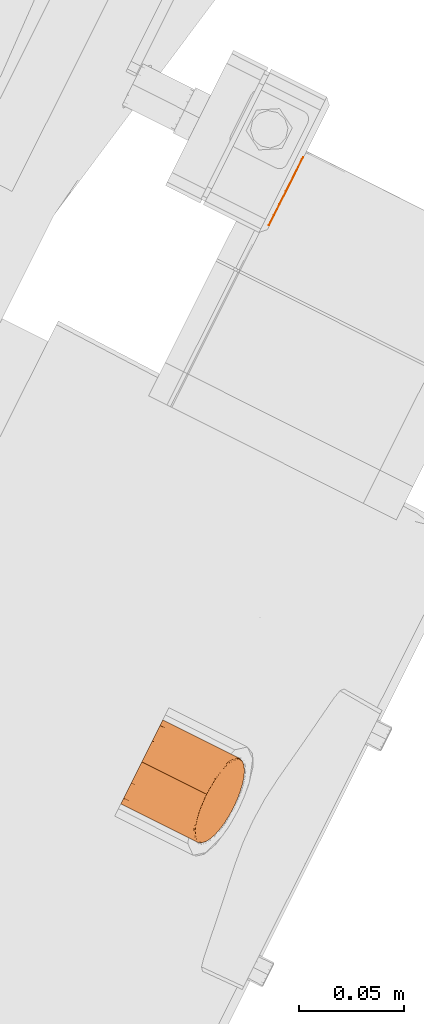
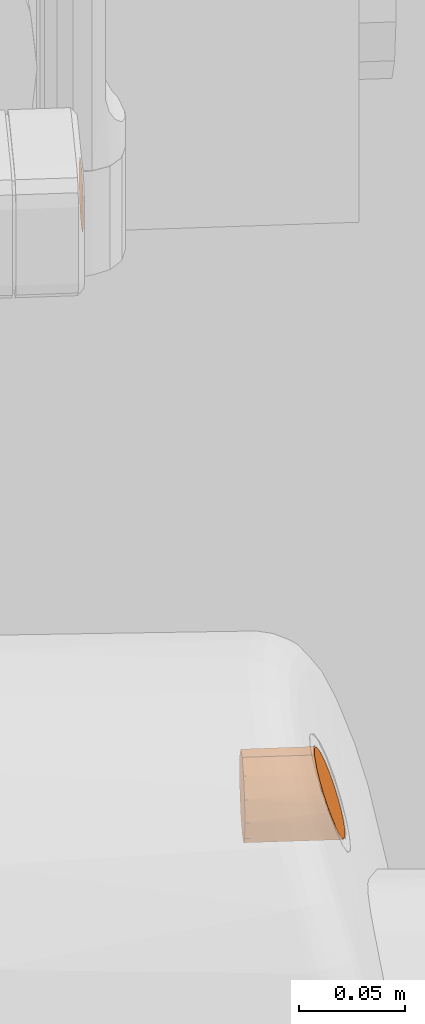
# One storey, part 199 of 206: 2 proxies.
"""IFC2X3 building model written with IfcOpenShell, lengths in metres."""

from ifc_helpers import new_model, si_unit, derived_unit, direction, frame, origin, place, context, subcontext, project, spatial, faceted_brep, source, transform, mapped, material, type_object, type_shapes, element, save


model = new_model("IFC2X3")

# Units and contexts
model_context = context("Model", 3, precision=5.2338327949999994e-05, world=origin(), true_north=direction((0.0, 1.0)))
body_context = subcontext(model_context, "Body", "Model", "MODEL_VIEW")
ifc_project = project(units=[si_unit("LENGTHUNIT", "METRE"), si_unit("AREAUNIT", "SQUARE_METRE"), si_unit("VOLUMEUNIT", "CUBIC_METRE"), si_unit("MASSUNIT", "GRAM", prefix="KILO"), si_unit("PLANEANGLEUNIT", "RADIAN"), derived_unit("THERMALTRANSMITTANCEUNIT", [(si_unit("MASSUNIT", "GRAM", prefix="KILO"), 1), (si_unit("THERMODYNAMICTEMPERATUREUNIT", "KELVIN"), -1), (si_unit("TIMEUNIT", "SECOND"), -3)])], contexts=[model_context])

# Site, building, storey
site_placement = place(None, frame((0.0, 0.0, 0.0), z_axis=(0.0, 0.0, 1.0), x_axis=(0.8939966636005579, -0.4480736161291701, 0.0)))
site = spatial("IfcSite", under=ifc_project, at=site_placement, Name="Default", CompositionType="ELEMENT")
building_placement = place(site_placement, origin())
building = spatial("IfcBuilding", under=site, at=building_placement, CompositionType="ELEMENT")
storey_placement = place(building_placement, origin())
storey = spatial("IfcBuildingStorey", under=building, at=storey_placement, Name="Erdgeschoss", CompositionType="ELEMENT", Elevation=0.0)

# Proxies
ifc_material_1 = material(Name="IfcSurfaceStyle #626231")
building_element_proxy_type_1 = type_object("IfcBuildingElementProxyType", Name="BuildingElementProxy 54:BuildingElementProxy 54", PredefinedType="NOTDEFINED", material=ifc_material_1)
shared_shape_1 = source(origin(), body_context, "Body", "Brep", [
    faceted_brep([(21.72325832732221, 4.1999830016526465, 0.7647842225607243), (21.72330908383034, 4.1999830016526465, 0.7644547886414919), (21.723122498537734, 4.2041402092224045, 0.7651936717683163), (21.723156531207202, 4.2042332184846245, 0.7647373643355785), (21.72274305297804, 4.208311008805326, 0.7659908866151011), (21.722678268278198, 4.208388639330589, 0.7657815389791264), (21.722007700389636, 4.212175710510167, 0.7678264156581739), (21.72189369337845, 4.212267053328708, 0.7676516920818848), (21.720997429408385, 4.215611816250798, 0.7704037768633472), (21.72084323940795, 4.215697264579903, 0.770267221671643), (21.71975469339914, 4.218449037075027, 0.7736345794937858), (21.719574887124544, 4.2185150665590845, 0.7735308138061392), (21.718336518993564, 4.220544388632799, 0.7773894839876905), (21.718144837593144, 4.220583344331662, 0.7773099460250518), (21.716810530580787, 4.221835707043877, 0.7814957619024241), (21.716619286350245, 4.221863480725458, 0.7814262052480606), (21.715240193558, 4.222292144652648, 0.785778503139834), (21.723297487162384, 4.1999830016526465, 0.7643168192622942), (21.723262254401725, 4.1999830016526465, 0.764166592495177), (21.723093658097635, 4.20427339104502, 0.7645145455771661), (21.723248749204, 4.1999830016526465, 0.7641269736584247), (21.72323414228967, 4.199983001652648, 0.7640892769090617), (21.723201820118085, 4.1999830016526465, 0.7640185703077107), (21.722980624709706, 4.204306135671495, 0.7643124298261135), (21.722564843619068, 4.208452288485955, 0.7655900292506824), (21.722406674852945, 4.208498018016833, 0.7654272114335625), (21.721737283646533, 4.212333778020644, 0.7675000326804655), (21.721547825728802, 4.212373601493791, 0.7673779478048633), (21.720658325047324, 4.215750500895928, 0.7701527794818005), (21.72045266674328, 4.2157695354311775, 0.7700657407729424), (21.719376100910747, 4.218543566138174, 0.7734458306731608), (21.71916751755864, 4.218532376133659, 0.773384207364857), (21.717945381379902, 4.220593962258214, 0.7772411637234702), (21.723120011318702, 4.1999830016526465, 0.7638840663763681), (21.722821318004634, 4.204329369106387, 0.7641427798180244), (21.722213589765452, 4.208524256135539, 0.7653001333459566), (21.72133603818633, 4.212385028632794, 0.7672912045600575), (21.720238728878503, 4.215757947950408, 0.7700035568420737), (21.722961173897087, 4.1999830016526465, 0.7637111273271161), (21.72289813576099, 4.1999830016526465, 0.7636611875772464), (21.722625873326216, 4.204342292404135, 0.7640129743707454), (21.72276514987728, 4.1999830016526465, 0.7635793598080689), (21.72260039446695, 4.199983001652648, 0.7635126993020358), (21.722405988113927, 4.204344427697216, 0.7639292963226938), (21.722543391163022, 4.199983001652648, 0.7634971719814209), (21.722466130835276, 4.1999830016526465, 0.7634817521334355), (21.722309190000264, 4.1999830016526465, 0.763469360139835), (21.72217336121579, 4.204335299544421, 0.7638980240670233), (21.72199689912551, 4.208530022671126, 0.765214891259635), (21.721771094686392, 4.208520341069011, 0.7651675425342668), (21.72111784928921, 4.212377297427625, 0.7672291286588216), (21.71542481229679, 4.222264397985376, 0.785841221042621), (21.713861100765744, 4.221863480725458, 0.7901308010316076), (21.714039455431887, 4.221833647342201, 0.7901838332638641), (21.712535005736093, 4.2205939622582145, 0.7943158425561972), (21.712708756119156, 4.220549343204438, 0.7943535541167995), (21.712516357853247, 4.22028665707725, 0.794956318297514), (21.71287543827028, 4.220484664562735, 0.7943820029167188), (21.712682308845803, 4.220222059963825, 0.7949822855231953), (21.71303114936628, 4.220393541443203, 0.7943958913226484), (21.71283746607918, 4.220131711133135, 0.7949931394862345), (21.71317052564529, 4.220278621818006, 0.7943945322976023), (21.712976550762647, 4.2200182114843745, 0.794988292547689), (21.713288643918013, 4.2201429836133, 0.7943775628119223), (21.713094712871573, 4.219884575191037, 0.794967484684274), (21.713382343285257, 4.2199914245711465, 0.7943459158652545), (21.71318881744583, 4.219735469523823, 0.7949317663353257), (21.713484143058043, 4.2196700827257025, 0.7942480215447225), (21.7122620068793, 4.217700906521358, 0.7979320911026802), (21.71131286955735, 4.21853237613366, 0.7981727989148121), (21.711481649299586, 4.21848508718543, 0.7981974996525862), (21.711643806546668, 4.218422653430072, 0.7982094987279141), (21.711796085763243, 4.218338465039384, 0.7982037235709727), (21.71193364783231, 4.218234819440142, 0.7981800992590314), (21.7120520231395, 4.218114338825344, 0.7981388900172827), (21.712148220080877, 4.217980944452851, 0.798081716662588), (21.711886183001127, 4.217424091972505, 0.7988748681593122), (21.711190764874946, 4.215050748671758, 0.8011612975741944), (21.71106553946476, 4.215289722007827, 0.8013587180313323), (21.71017902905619, 4.2120053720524, 0.8040417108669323), (21.710079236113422, 4.212091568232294, 0.8041376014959), (21.709419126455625, 4.208321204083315, 0.8061443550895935), (21.709300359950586, 4.2083752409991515, 0.8062354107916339), (21.70887531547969, 4.1999830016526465, 0.8077973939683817), (21.708756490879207, 4.1999830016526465, 0.8078984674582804), (21.70930035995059, 4.191590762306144, 0.806235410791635), (21.70916633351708, 4.191542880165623, 0.8063065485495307), (21.70996054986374, 4.187795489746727, 0.8042163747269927), (21.7098256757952, 4.187726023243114, 0.8042755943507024), (21.710848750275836, 4.1844635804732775, 0.8014994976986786), (21.710712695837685, 4.184375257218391, 0.8015426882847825), (21.711671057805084, 4.182296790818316, 0.7989836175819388), (21.711533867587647, 4.182196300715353, 0.7990119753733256), (21.711933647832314, 4.1817311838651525, 0.7981800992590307), (21.711796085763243, 4.18162753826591, 0.7982037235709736), (21.71317052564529, 4.17968738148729, 0.7943945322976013), (21.71303114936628, 4.179572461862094, 0.7943958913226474), (21.71451262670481, 4.178410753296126, 0.7902854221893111), (21.71437115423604, 4.178289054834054, 0.790262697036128), (21.715910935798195, 4.1779745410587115, 0.7860022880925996), (21.715767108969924, 4.177850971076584, 0.7859545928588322), (21.717310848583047, 4.178386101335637, 0.7817121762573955), (21.717164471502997, 4.178265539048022, 0.7816396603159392), (21.71866005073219, 4.17961194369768, 0.7775755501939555), (21.71851102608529, 4.179498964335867, 0.7774793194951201), (21.71990636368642, 4.18161809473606, 0.7737524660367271), (21.71975469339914, 4.181516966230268, 0.7736345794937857), (21.72099742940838, 4.184354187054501, 0.7704037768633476), (21.72084323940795, 4.184268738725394, 0.7702672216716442), (21.721893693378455, 4.187698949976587, 0.7676516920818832), (21.721737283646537, 4.187632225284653, 0.7675000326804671), (21.722564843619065, 4.19151371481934, 0.7655900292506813), (21.722406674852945, 4.1914679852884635, 0.7654272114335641), (21.722980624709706, 4.195659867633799, 0.7643124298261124), (21.722821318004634, 4.195636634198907, 0.76414277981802), (21.71122105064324, 4.217913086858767, 0.7990136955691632), (21.710241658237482, 4.215757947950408, 0.8015534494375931), (21.710404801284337, 4.215720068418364, 0.8015698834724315), (21.709362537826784, 4.212377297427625, 0.8043278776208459), (21.709522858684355, 4.212344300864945, 0.8043312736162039), (21.708709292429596, 4.208520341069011, 0.8063894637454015), (21.70886713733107, 4.208496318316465, 0.8063840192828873), (21.70817119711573, 4.1999830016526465, 0.8080876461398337), (21.708326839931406, 4.1999830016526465, 0.8080752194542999), (21.708867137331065, 4.19146968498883, 0.8063840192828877), (21.709020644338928, 4.191502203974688, 0.8063564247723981), (21.70967841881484, 4.187667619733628, 0.8043141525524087), (21.708709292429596, 4.191445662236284, 0.8063894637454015), (21.709522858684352, 4.187621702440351, 0.8043312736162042), (21.710563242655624, 4.184302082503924, 0.8015662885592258), (21.709362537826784, 4.18758870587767, 0.8043278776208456), (21.710404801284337, 4.184245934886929, 0.8015698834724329), (21.711382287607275, 4.182114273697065, 0.7990220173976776), (21.710241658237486, 4.184208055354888, 0.8015534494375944), (21.71122105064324, 4.182052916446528, 0.7990136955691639), (21.71164380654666, 4.181543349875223, 0.7982094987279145), (21.71131286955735, 4.181433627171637, 0.7981727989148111), (21.711481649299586, 4.181480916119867, 0.7981974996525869), (21.712875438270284, 4.1794813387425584, 0.7943820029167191), (21.71270875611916, 4.179416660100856, 0.7943535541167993), (21.712535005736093, 4.179372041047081, 0.7943158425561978), (21.714039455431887, 4.178132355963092, 0.7901838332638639), (21.713861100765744, 4.178102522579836, 0.7901308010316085), (21.71542481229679, 4.177701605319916, 0.7858412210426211), (21.715240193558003, 4.177673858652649, 0.7857785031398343), (21.716810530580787, 4.178130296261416, 0.7814957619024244), (21.716619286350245, 4.178102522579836, 0.7814262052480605), (21.718144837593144, 4.1793826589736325, 0.7773099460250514), (21.7179453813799, 4.179372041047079, 0.7772411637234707), (21.719376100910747, 4.18142243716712, 0.7734458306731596), (21.71916751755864, 4.181433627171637, 0.773384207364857), (21.72045266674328, 4.184196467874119, 0.7700657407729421), (21.720238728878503, 4.184208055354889, 0.7700035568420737), (21.721336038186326, 4.187580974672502, 0.7672912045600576), (21.72111784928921, 4.187588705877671, 0.7672291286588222), (21.72199689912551, 4.191435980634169, 0.7652148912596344), (21.72177109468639, 4.191445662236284, 0.7651675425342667), (21.722173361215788, 4.195630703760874, 0.7638980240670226), (21.722405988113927, 4.1956215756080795, 0.7639292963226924), (21.722625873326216, 4.195623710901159, 0.764012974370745), (21.722213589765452, 4.191441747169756, 0.7653001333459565), (21.723093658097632, 4.195692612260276, 0.7645145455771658), (21.722678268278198, 4.191577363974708, 0.7657815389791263), (21.722007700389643, 4.1877902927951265, 0.7678264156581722), (21.721112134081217, 4.1844689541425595, 0.7705566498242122), (21.72002180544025, 4.181750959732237, 0.7738795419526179), (21.71877619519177, 4.179756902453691, 0.7776742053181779), (21.717427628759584, 4.178537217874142, 0.7817810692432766), (21.71602826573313, 4.178126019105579, 0.7860412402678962), (21.714630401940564, 4.178556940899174, 0.7902954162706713), (21.713288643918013, 4.1798230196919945, 0.7943775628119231), (21.712052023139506, 4.181851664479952, 0.7981388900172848), (21.71178948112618, 4.182413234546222, 0.7989373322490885), (21.710967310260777, 4.184564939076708, 0.8014374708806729), (21.710079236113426, 4.187874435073, 0.8041376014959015), (21.70941912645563, 4.19164479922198, 0.8061443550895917), (21.708977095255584, 4.1999830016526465, 0.807678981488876), (21.7095200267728, 4.208262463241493, 0.8060360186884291), (21.71031167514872, 4.211821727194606, 0.8038112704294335), (21.723156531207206, 4.195732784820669, 0.7647373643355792), (21.72312249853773, 4.19582579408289, 0.7651936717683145), (21.72274305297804, 4.191654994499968, 0.7659908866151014), (21.722720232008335, 4.191828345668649, 0.7664062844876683), (21.72207540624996, 4.187900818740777, 0.7680147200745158), (21.722066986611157, 4.188144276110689, 0.7683754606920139), (21.72118786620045, 4.1849151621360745, 0.7710255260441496), (21.72118347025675, 4.184606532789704, 0.7707180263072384), (21.720116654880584, 4.182265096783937, 0.7742546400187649), (21.720097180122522, 4.181908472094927, 0.7740097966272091), (21.71885570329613, 4.179926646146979, 0.7777710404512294), (21.71889451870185, 4.180295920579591, 0.7779387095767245), (21.71751117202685, 4.178711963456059, 0.7818437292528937), (21.71756842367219, 4.17908330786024, 0.7819361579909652), (21.71618933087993, 4.1786738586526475, 0.7860933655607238), (21.716115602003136, 4.178299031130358, 0.7860702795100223), (21.71481023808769, 4.17908330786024, 0.7902505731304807), (21.714721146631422, 4.178721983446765, 0.7902926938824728), (21.713382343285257, 4.1799745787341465, 0.7943459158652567), (21.71348414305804, 4.18029592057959, 0.7942480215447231), (21.712148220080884, 4.18198505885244, 0.7980817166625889), (21.7122620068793, 4.182265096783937, 0.7979320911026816), (21.711886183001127, 4.182541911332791, 0.7988748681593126), (21.71119076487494, 4.184915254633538, 0.8011612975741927), (21.71106553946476, 4.184676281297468, 0.8013587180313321), (21.71017902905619, 4.1879606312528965, 0.8040417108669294), (21.71031167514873, 4.188144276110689, 0.8038112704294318), (21.709520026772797, 4.191703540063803, 0.806036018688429), (21.709658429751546, 4.191828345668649, 0.8057804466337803), (21.709120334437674, 4.1999830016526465, 0.8074025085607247), (21.709658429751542, 4.208137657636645, 0.8057804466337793), (21.714810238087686, 4.220882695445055, 0.7902505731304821), (21.714721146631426, 4.221244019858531, 0.7902926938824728), (21.714630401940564, 4.22140906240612, 0.7902954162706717), (21.71451262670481, 4.221555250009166, 0.7902854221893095), (21.714371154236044, 4.221676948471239, 0.7902626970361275), (21.714211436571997, 4.221770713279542, 0.7902283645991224), (21.716188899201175, 4.221292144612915, 0.7860946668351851), (21.716115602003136, 4.22166697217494, 0.7860702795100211), (21.71602826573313, 4.221839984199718, 0.7860412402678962), (21.715910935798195, 4.221991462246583, 0.7860022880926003), (21.715767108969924, 4.22211503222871, 0.785954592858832), (21.715602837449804, 4.222207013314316, 0.7859001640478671), (21.71756842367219, 4.220882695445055, 0.7819361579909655), (21.71751117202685, 4.221254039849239, 0.7818437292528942), (21.717427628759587, 4.221428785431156, 0.7817810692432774), (21.717310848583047, 4.221579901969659, 0.7817121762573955), (21.717164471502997, 4.221700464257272, 0.7816396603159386), (21.716995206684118, 4.221786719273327, 0.7815664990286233), (21.718894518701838, 4.2196700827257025, 0.7779387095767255), (21.718855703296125, 4.220039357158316, 0.777771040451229), (21.71877619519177, 4.220209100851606, 0.7776742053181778), (21.718660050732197, 4.220354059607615, 0.7775755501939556), (21.718511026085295, 4.220467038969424, 0.7774793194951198), (21.720116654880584, 4.217700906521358, 0.7742546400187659), (21.72009718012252, 4.218057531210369, 0.7740097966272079), (21.72002180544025, 4.21821504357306, 0.7738795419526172), (21.719906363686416, 4.218347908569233, 0.7737524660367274), (21.721187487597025, 4.215051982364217, 0.7710266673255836), (21.721183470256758, 4.215359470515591, 0.7707180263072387), (21.721112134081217, 4.215497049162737, 0.7705566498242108), (21.722075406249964, 4.2120651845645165, 0.7680147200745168), (21.72206698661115, 4.211821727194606, 0.7683754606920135), (21.72272023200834, 4.208137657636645, 0.7664062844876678), (21.711382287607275, 4.2178517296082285, 0.7990220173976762), (21.711533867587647, 4.2177697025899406, 0.7990119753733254), (21.710563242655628, 4.2156639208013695, 0.8015662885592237), (21.71167105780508, 4.217669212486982, 0.7989836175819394), (21.71071269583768, 4.215590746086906, 0.8015426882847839), (21.709678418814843, 4.212298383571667, 0.8043141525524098), (21.71178948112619, 4.217552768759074, 0.7989373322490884), (21.710848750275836, 4.215502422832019, 0.8014994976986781), (21.7098256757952, 4.212239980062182, 0.8042755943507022), (21.709020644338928, 4.208463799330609, 0.8063564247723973), (21.710967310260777, 4.215401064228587, 0.8014374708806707), (21.708478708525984, 4.1999830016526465, 0.8080387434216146), (21.70916633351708, 4.208423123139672, 0.8063065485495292), (21.709960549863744, 4.212170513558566, 0.804216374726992), (21.70862314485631, 4.1999830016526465, 0.8079794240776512), (21.714211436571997, 4.178195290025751, 0.7902283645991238), (21.715602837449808, 4.177758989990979, 0.7859001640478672), (21.716995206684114, 4.178179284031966, 0.7815664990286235), (21.71833651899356, 4.179421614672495, 0.7773894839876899), (21.71957488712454, 4.18145093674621, 0.7735308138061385), (21.720658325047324, 4.184215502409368, 0.770152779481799), (21.721547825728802, 4.1875924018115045, 0.7673779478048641), (21.674596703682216, 4.219303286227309, 0.7969330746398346), (21.674596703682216, 4.222292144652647, 0.7857785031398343), (21.674596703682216, 4.211137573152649, 0.805098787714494), (21.674596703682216, 4.1999830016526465, 0.8080876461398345), (21.674596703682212, 4.188828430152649, 0.8050987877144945), (21.674596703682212, 4.180662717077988, 0.7969330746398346), (21.674596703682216, 4.177673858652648, 0.7857785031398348), (21.674596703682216, 4.180662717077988, 0.7746239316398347), (21.674596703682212, 4.188828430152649, 0.7664582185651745), (21.674596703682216, 4.1999830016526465, 0.763469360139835), (21.674596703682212, 4.211137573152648, 0.7664582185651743), (21.674596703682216, 4.219303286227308, 0.774623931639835)], [[[0, 1, 2]], [[2, 1, 3]], [[2, 3, 4]], [[4, 3, 5]], [[4, 5, 6]], [[6, 5, 7]], [[6, 7, 8]], [[8, 7, 9]], [[8, 9, 10]], [[10, 9, 11]], [[10, 11, 12]], [[12, 11, 13]], [[12, 13, 14]], [[14, 13, 15]], [[14, 15, 16]], [[1, 17, 3]], [[3, 17, 18]], [[3, 18, 19]], [[19, 18, 20]], [[19, 20, 21]], [[21, 22, 19]], [[19, 22, 23]], [[19, 23, 24]], [[24, 23, 25]], [[24, 25, 26]], [[26, 25, 27]], [[26, 27, 28]], [[28, 27, 29]], [[28, 29, 30]], [[30, 29, 31]], [[30, 31, 32]], [[22, 33, 23]], [[23, 33, 34]], [[23, 34, 25]], [[25, 34, 35]], [[25, 35, 27]], [[27, 35, 36]], [[27, 36, 29]], [[29, 36, 37]], [[29, 37, 31]], [[33, 38, 34]], [[34, 38, 39]], [[34, 39, 40]], [[40, 39, 41]], [[40, 41, 42]], [[40, 42, 43]], [[43, 42, 44]], [[43, 44, 45]], [[46, 47, 45]], [[45, 47, 43]], [[43, 47, 48]], [[48, 47, 49]], [[48, 49, 50]], [[48, 50, 36]], [[36, 50, 37]], [[30, 32, 13]], [[13, 32, 15]], [[14, 16, 51]], [[51, 16, 52]], [[51, 52, 53]], [[53, 52, 54]], [[53, 54, 55]], [[55, 54, 56]], [[55, 56, 57]], [[57, 56, 58]], [[57, 58, 59]], [[59, 58, 60]], [[59, 60, 61]], [[61, 60, 62]], [[61, 62, 63]], [[63, 62, 64]], [[63, 64, 65]], [[65, 64, 66]], [[65, 66, 67]], [[67, 66, 68]], [[54, 69, 56]], [[56, 69, 70]], [[56, 70, 58]], [[58, 70, 71]], [[58, 71, 60]], [[60, 71, 72]], [[60, 72, 62]], [[62, 72, 73]], [[62, 73, 64]], [[64, 73, 74]], [[64, 74, 66]], [[66, 74, 75]], [[66, 75, 68]], [[68, 75, 76]], [[68, 76, 77]], [[77, 76, 78]], [[77, 78, 79]], [[79, 78, 80]], [[79, 80, 81]], [[81, 80, 82]], [[81, 82, 83]], [[83, 82, 84]], [[83, 84, 85]], [[85, 84, 86]], [[85, 86, 87]], [[87, 86, 88]], [[87, 88, 89]], [[89, 88, 90]], [[89, 90, 91]], [[91, 90, 92]], [[91, 92, 93]], [[93, 92, 94]], [[93, 94, 95]], [[95, 94, 96]], [[95, 96, 97]], [[97, 96, 98]], [[97, 98, 99]], [[99, 98, 100]], [[99, 100, 101]], [[101, 100, 102]], [[101, 102, 103]], [[103, 102, 104]], [[103, 104, 105]], [[105, 104, 106]], [[105, 106, 107]], [[107, 106, 108]], [[107, 108, 109]], [[109, 108, 110]], [[109, 110, 111]], [[111, 110, 112]], [[111, 112, 113]], [[113, 112, 114]], [[113, 114, 33]], [[33, 114, 38]], [[70, 69, 115]], [[115, 69, 116]], [[115, 116, 117]], [[117, 116, 118]], [[117, 118, 119]], [[119, 118, 120]], [[119, 120, 121]], [[121, 120, 122]], [[121, 122, 123]], [[123, 122, 124]], [[123, 124, 125]], [[125, 124, 126]], [[125, 126, 88]], [[88, 126, 90]], [[122, 127, 124]], [[124, 127, 128]], [[124, 128, 126]], [[126, 128, 129]], [[126, 129, 90]], [[90, 129, 92]], [[127, 130, 128]], [[128, 130, 131]], [[128, 131, 129]], [[129, 131, 132]], [[129, 132, 92]], [[92, 132, 94]], [[130, 133, 131]], [[131, 133, 134]], [[131, 134, 132]], [[132, 134, 135]], [[132, 135, 94]], [[94, 135, 96]], [[133, 136, 134]], [[134, 136, 137]], [[134, 137, 135]], [[135, 137, 138]], [[135, 138, 96]], [[96, 138, 98]], [[137, 136, 139]], [[139, 136, 140]], [[139, 140, 141]], [[141, 140, 142]], [[141, 142, 143]], [[143, 142, 144]], [[143, 144, 145]], [[145, 144, 146]], [[145, 146, 147]], [[147, 146, 148]], [[147, 148, 149]], [[149, 148, 150]], [[149, 150, 151]], [[151, 150, 152]], [[151, 152, 153]], [[153, 152, 154]], [[153, 154, 155]], [[155, 154, 156]], [[155, 156, 157]], [[46, 45, 157]], [[157, 45, 158]], [[157, 158, 155]], [[155, 158, 159]], [[155, 159, 160]], [[160, 159, 114]], [[160, 114, 112]], [[45, 44, 158]], [[158, 44, 42]], [[158, 42, 159]], [[159, 42, 41]], [[159, 41, 39]], [[159, 39, 114]], [[114, 39, 38]], [[33, 22, 113]], [[113, 22, 161]], [[113, 161, 111]], [[111, 161, 162]], [[111, 162, 109]], [[109, 162, 163]], [[109, 163, 107]], [[107, 163, 164]], [[107, 164, 105]], [[105, 164, 165]], [[105, 165, 103]], [[103, 165, 166]], [[103, 166, 101]], [[101, 166, 167]], [[101, 167, 99]], [[99, 167, 168]], [[99, 168, 97]], [[97, 168, 169]], [[97, 169, 95]], [[95, 169, 170]], [[95, 170, 93]], [[93, 170, 171]], [[93, 171, 91]], [[91, 171, 172]], [[91, 172, 89]], [[89, 172, 173]], [[89, 173, 87]], [[87, 173, 174]], [[87, 174, 85]], [[85, 174, 175]], [[85, 175, 83]], [[83, 175, 176]], [[83, 176, 81]], [[81, 176, 177]], [[81, 177, 79]], [[79, 177, 178]], [[79, 178, 77]], [[22, 21, 161]], [[161, 21, 20]], [[161, 20, 18]], [[161, 18, 179]], [[179, 18, 17]], [[179, 17, 1]], [[0, 180, 1]], [[1, 180, 179]], [[179, 180, 181]], [[181, 180, 182]], [[181, 182, 183]], [[183, 182, 184]], [[183, 184, 185]], [[183, 185, 186]], [[186, 185, 187]], [[186, 187, 188]], [[188, 187, 189]], [[188, 189, 166]], [[166, 189, 167]], [[187, 190, 189]], [[189, 190, 191]], [[189, 191, 167]], [[167, 191, 168]], [[190, 192, 191]], [[191, 192, 193]], [[191, 193, 194]], [[194, 193, 195]], [[194, 195, 196]], [[196, 195, 197]], [[196, 197, 170]], [[170, 197, 171]], [[195, 198, 197]], [[197, 198, 199]], [[197, 199, 171]], [[171, 199, 172]], [[198, 200, 199]], [[199, 200, 201]], [[199, 201, 172]], [[172, 201, 173]], [[200, 202, 201]], [[201, 202, 203]], [[201, 203, 173]], [[173, 203, 174]], [[203, 202, 204]], [[204, 202, 205]], [[204, 205, 206]], [[206, 205, 207]], [[206, 207, 208]], [[209, 177, 208]], [[208, 177, 176]], [[208, 176, 206]], [[206, 176, 175]], [[206, 175, 204]], [[204, 175, 174]], [[204, 174, 203]], [[209, 178, 177]], [[67, 210, 65]], [[65, 210, 211]], [[65, 211, 63]], [[63, 211, 212]], [[63, 212, 61]], [[61, 212, 213]], [[61, 213, 59]], [[59, 213, 214]], [[59, 214, 57]], [[57, 214, 215]], [[57, 215, 55]], [[55, 215, 53]], [[210, 216, 211]], [[211, 216, 217]], [[211, 217, 212]], [[212, 217, 218]], [[212, 218, 213]], [[213, 218, 219]], [[213, 219, 214]], [[214, 219, 220]], [[214, 220, 215]], [[215, 220, 221]], [[215, 221, 53]], [[53, 221, 51]], [[216, 222, 217]], [[217, 222, 223]], [[217, 223, 218]], [[218, 223, 224]], [[218, 224, 219]], [[219, 224, 225]], [[219, 225, 220]], [[220, 225, 226]], [[220, 226, 221]], [[221, 226, 227]], [[221, 227, 51]], [[51, 227, 14]], [[222, 228, 223]], [[223, 228, 229]], [[223, 229, 224]], [[224, 229, 230]], [[224, 230, 225]], [[225, 230, 231]], [[225, 231, 226]], [[226, 231, 232]], [[226, 232, 227]], [[227, 232, 12]], [[227, 12, 14]], [[228, 233, 229]], [[229, 233, 234]], [[229, 234, 230]], [[230, 234, 235]], [[230, 235, 231]], [[231, 235, 236]], [[231, 236, 232]], [[232, 236, 10]], [[232, 10, 12]], [[233, 237, 234]], [[234, 237, 238]], [[234, 238, 235]], [[235, 238, 239]], [[235, 239, 236]], [[236, 239, 8]], [[236, 8, 10]], [[238, 237, 240]], [[240, 237, 241]], [[240, 241, 242]], [[240, 242, 4]], [[4, 242, 2]], [[43, 48, 40]], [[40, 48, 35]], [[40, 35, 34]], [[3, 19, 5]], [[5, 19, 24]], [[5, 24, 7]], [[7, 24, 26]], [[7, 26, 9]], [[9, 26, 28]], [[9, 28, 11]], [[11, 28, 30]], [[11, 30, 13]], [[35, 48, 36]], [[4, 6, 240]], [[240, 6, 239]], [[240, 239, 238]], [[8, 239, 6]], [[72, 71, 243]], [[243, 71, 115]], [[243, 115, 117]], [[73, 72, 244]], [[244, 72, 243]], [[244, 243, 245]], [[245, 243, 117]], [[245, 117, 119]], [[74, 73, 246]], [[246, 73, 244]], [[246, 244, 247]], [[247, 244, 245]], [[247, 245, 248]], [[248, 245, 119]], [[248, 119, 121]], [[75, 74, 249]], [[249, 74, 246]], [[249, 246, 250]], [[250, 246, 247]], [[250, 247, 251]], [[251, 247, 248]], [[251, 248, 252]], [[252, 248, 121]], [[252, 121, 123]], [[75, 249, 76]], [[76, 249, 253]], [[76, 253, 78]], [[78, 253, 80]], [[71, 70, 115]], [[123, 254, 252]], [[252, 254, 255]], [[252, 255, 251]], [[251, 255, 256]], [[251, 256, 250]], [[250, 256, 253]], [[250, 253, 249]], [[82, 80, 256]], [[256, 80, 253]], [[84, 82, 255]], [[255, 82, 256]], [[84, 255, 257]], [[257, 255, 254]], [[257, 254, 86]], [[86, 254, 125]], [[86, 125, 88]], [[254, 123, 125]], [[84, 257, 86]], [[137, 139, 138]], [[138, 139, 258]], [[138, 258, 98]], [[98, 258, 100]], [[139, 141, 258]], [[258, 141, 259]], [[258, 259, 100]], [[100, 259, 102]], [[194, 196, 169]], [[169, 196, 170]], [[141, 143, 259]], [[259, 143, 260]], [[259, 260, 102]], [[102, 260, 104]], [[191, 194, 168]], [[168, 194, 169]], [[143, 145, 260]], [[260, 145, 261]], [[260, 261, 104]], [[104, 261, 106]], [[145, 147, 261]], [[261, 147, 262]], [[261, 262, 106]], [[106, 262, 108]], [[147, 149, 262]], [[262, 149, 263]], [[262, 263, 108]], [[108, 263, 110]], [[186, 188, 165]], [[165, 188, 166]], [[149, 151, 263]], [[263, 151, 264]], [[263, 264, 110]], [[110, 264, 112]], [[183, 186, 164]], [[164, 186, 165]], [[151, 153, 264]], [[264, 153, 160]], [[264, 160, 112]], [[181, 183, 163]], [[163, 183, 164]], [[155, 160, 153]], [[179, 181, 162]], [[162, 181, 163]], [[161, 179, 162]], [[0, 2, 180]], [[180, 2, 182]], [[2, 242, 182]], [[182, 242, 184]], [[242, 241, 184]], [[184, 241, 185]], [[241, 237, 185]], [[185, 237, 187]], [[237, 233, 187]], [[187, 233, 190]], [[233, 228, 190]], [[190, 228, 192]], [[228, 222, 192]], [[192, 222, 193]], [[222, 216, 193]], [[193, 216, 195]], [[216, 210, 195]], [[195, 210, 198]], [[210, 67, 198]], [[198, 67, 200]], [[67, 68, 200]], [[200, 68, 202]], [[68, 77, 202]], [[202, 77, 205]], [[77, 178, 205]], [[205, 178, 207]], [[178, 209, 207]], [[207, 209, 208]], [[69, 54, 265]], [[265, 54, 52]], [[265, 52, 266]], [[266, 52, 16]], [[266, 16, 15]], [[69, 265, 116]], [[116, 265, 267]], [[116, 267, 118]], [[118, 267, 120]], [[267, 268, 120]], [[120, 268, 122]], [[122, 268, 127]], [[127, 268, 269]], [[127, 269, 130]], [[130, 269, 133]], [[269, 270, 133]], [[133, 270, 136]], [[146, 144, 271]], [[271, 144, 142]], [[271, 142, 270]], [[270, 142, 140]], [[270, 140, 136]], [[271, 272, 146]], [[146, 272, 148]], [[156, 154, 273]], [[273, 154, 152]], [[273, 152, 272]], [[272, 152, 150]], [[272, 150, 148]], [[156, 273, 157]], [[157, 273, 274]], [[157, 274, 46]], [[46, 274, 47]], [[274, 275, 47]], [[47, 275, 49]], [[32, 31, 276]], [[276, 31, 37]], [[276, 37, 275]], [[275, 37, 50]], [[275, 50, 49]], [[32, 276, 15]], [[15, 276, 266]], [[275, 273, 276]], [[276, 273, 272]], [[276, 272, 266]], [[266, 272, 271]], [[266, 271, 265]], [[265, 271, 270]], [[265, 270, 267]], [[267, 270, 269]], [[267, 269, 268]], [[275, 274, 273]]]),
])
type_shapes(building_element_proxy_type_1, [shared_shape_1])
proxy_1_placement = place(storey_placement, origin())
element("IfcBuildingElementProxy", 1, at=proxy_1_placement, inside=storey, type_object=building_element_proxy_type_1, material=ifc_material_1, Name="BuildingElementProxy 54", context=body_context, shape_type="MappedRepresentation", body=[
    mapped(shared_shape_1, transform((0.0, 0.0, 0.0), scale=1.0)),
])
ifc_material_2 = material(Name="IfcSurfaceStyle #631137")
building_element_proxy_type_2 = type_object("IfcBuildingElementProxyType", Name="BuildingElementProxy 60:BuildingElementProxy 60", PredefinedType="NOTDEFINED", material=ifc_material_2)
shared_shape_2 = source(origin(), body_context, "Body", "Brep", [
    faceted_brep([(21.614417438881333, 4.466224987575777, 0.9284077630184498), (21.614417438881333, 4.48005816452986, 0.9284077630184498), (21.614417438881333, 4.460361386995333, 0.9323256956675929), (21.614417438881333, 4.485921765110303, 0.9323256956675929), (21.614417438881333, 4.456443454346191, 0.9381892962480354), (21.614417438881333, 4.489839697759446, 0.9381892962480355), (21.614417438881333, 4.455067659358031, 0.9451058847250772), (21.614417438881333, 4.491215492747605, 0.9451058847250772), (21.614417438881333, 4.456443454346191, 0.9520224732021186), (21.614417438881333, 4.489839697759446, 0.9520224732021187), (21.614417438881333, 4.460361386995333, 0.9578860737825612), (21.614417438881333, 4.4859217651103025, 0.9578860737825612), (21.614417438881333, 4.466224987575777, 0.9618040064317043), (21.614417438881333, 4.48005816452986, 0.9618040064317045), (21.614417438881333, 4.473141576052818, 0.9631798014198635), (21.614417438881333, 4.473141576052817, 0.9270319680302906), (21.614321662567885, 4.489839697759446, 0.9520224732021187), (21.614321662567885, 4.491215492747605, 0.9451058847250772), (21.614321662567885, 4.489839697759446, 0.9381892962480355), (21.614321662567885, 4.4859217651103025, 0.932325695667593), (21.614321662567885, 4.48005816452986, 0.9284077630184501), (21.614321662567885, 4.473141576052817, 0.9270319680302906), (21.614321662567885, 4.466224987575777, 0.9284077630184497), (21.614321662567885, 4.460361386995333, 0.9323256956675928), (21.614321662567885, 4.456443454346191, 0.9381892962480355), (21.614321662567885, 4.45506765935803, 0.9451058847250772), (21.614321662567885, 4.456443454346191, 0.9520224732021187), (21.614321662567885, 4.460361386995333, 0.9578860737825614), (21.614321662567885, 4.466224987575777, 0.9618040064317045), (21.614321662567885, 4.473141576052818, 0.9631798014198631), (21.614321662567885, 4.48005816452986, 0.9618040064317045), (21.614321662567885, 4.4859217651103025, 0.9578860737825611)], [[[0, 1, 2]], [[2, 1, 3]], [[2, 3, 4]], [[4, 3, 5]], [[4, 5, 6]], [[6, 5, 7]], [[6, 7, 8]], [[8, 7, 9]], [[8, 9, 10]], [[10, 9, 11]], [[10, 11, 12]], [[12, 11, 13]], [[12, 13, 14]], [[0, 15, 1]], [[16, 7, 17]], [[17, 7, 5]], [[17, 5, 18]], [[18, 5, 3]], [[18, 3, 19]], [[19, 3, 1]], [[19, 1, 20]], [[20, 1, 15]], [[20, 15, 21]], [[21, 15, 0]], [[21, 0, 22]], [[22, 0, 2]], [[22, 2, 23]], [[23, 2, 4]], [[23, 4, 24]], [[24, 4, 6]], [[24, 6, 25]], [[25, 6, 8]], [[25, 8, 26]], [[26, 8, 10]], [[26, 10, 27]], [[27, 10, 12]], [[27, 12, 28]], [[28, 12, 14]], [[28, 14, 29]], [[29, 14, 13]], [[29, 13, 30]], [[30, 13, 11]], [[30, 11, 31]], [[31, 11, 9]], [[31, 9, 16]], [[16, 9, 7]], [[17, 18, 16]], [[16, 18, 31]], [[18, 19, 31]], [[31, 19, 30]], [[19, 20, 30]], [[30, 20, 29]], [[20, 21, 29]], [[29, 21, 28]], [[21, 22, 28]], [[28, 22, 27]], [[22, 23, 27]], [[27, 23, 26]], [[23, 24, 26]], [[26, 24, 25]]]),
])
type_shapes(building_element_proxy_type_2, [shared_shape_2])
proxy_2_placement = place(storey_placement, origin())
element("IfcBuildingElementProxy", 2, at=proxy_2_placement, inside=storey, type_object=building_element_proxy_type_2, material=ifc_material_2, Name="BuildingElementProxy 60", context=body_context, shape_type="MappedRepresentation", body=[
    mapped(shared_shape_2, transform((0.0, 0.0, 0.0), scale=1.0)),
])

save(model, "model.ifc")
